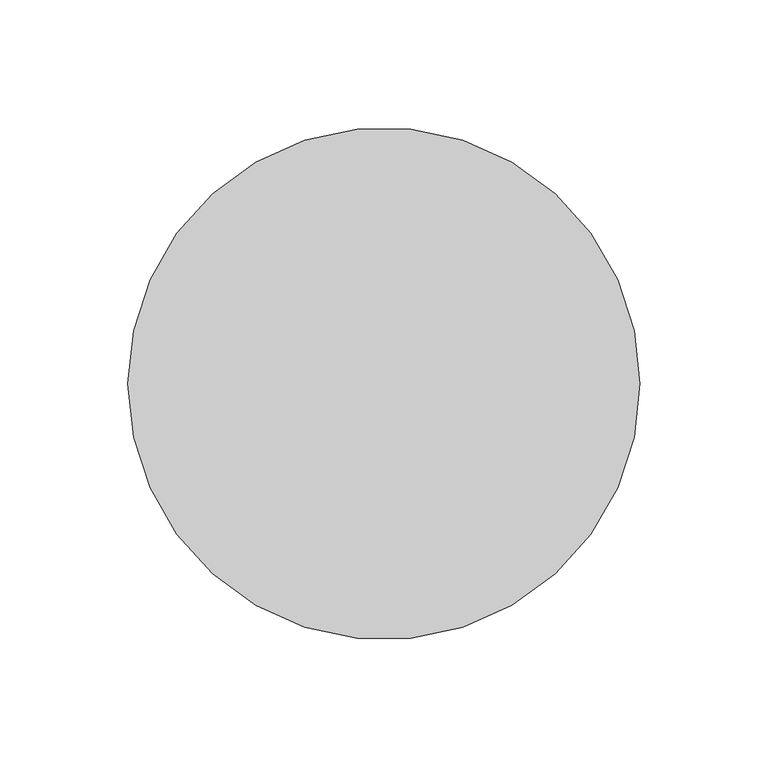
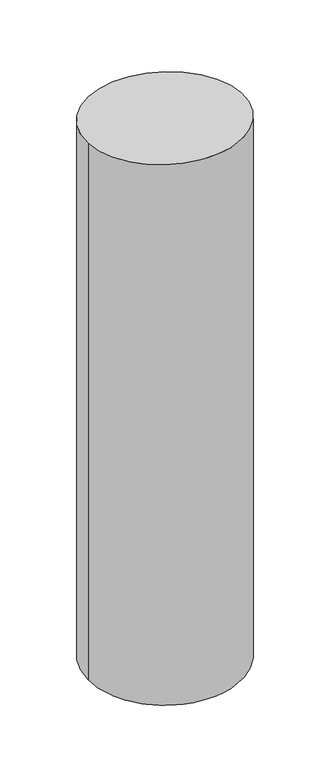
"""IFC4 building model written with IfcOpenShell, lengths in millimetres: member geometry, 矩形竖梃 : 圆瓦."""

from ifc_helpers import new_model, si_unit, frame, origin, origin_with_axes, place, context, project, spatial, circle_curve, ellipse_curve, source, transform, mapped, element, save
from ifc_brep_helpers import plane_surface, cylinder_surface, advanced_brep


def member_d0b930ac(model_context):
    return source(origin(), model_context, "Body", "AdvancedBrep", [
        advanced_brep(
        [(100.0, 0.0, -741.355289), (-100.0, 0.0, -741.355289), (-100.0, 0.0, 0.0), (100.0, 0.0, 0.0)],
        [
            (0, 1, circle_curve(frame((0.0, 0.0, -741.355289), z_axis=(0.0, 0.0, -1.0), x_axis=(1.0, 0.0, 0.0)), 100.0)),
            (1, 0, circle_curve(frame((0.0, 0.0, -741.355289), z_axis=(0.0, 0.0, -1.0), x_axis=(1.0, 0.0, 0.0)), 100.0)),
            (2, 3, ellipse_curve(frame((0.0, 0.0, 0.0), z_axis=(0.0, -0.0655849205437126, -0.9978469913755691), x_axis=(0.0, -0.997846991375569, 0.06558492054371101)), 100.2157654, 100.0)),
            (3, 0),
            (1, 2),
            (3, 2, ellipse_curve(frame((0.0, 0.0, 0.0), z_axis=(0.0, -0.0655849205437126, -0.9978469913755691), x_axis=(0.0, -0.997846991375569, 0.06558492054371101)), 100.2157654, 100.0)),
        ],
        [
            plane_surface(frame((0.0, -100.0, -741.355289), z_axis=(0.0, 0.0, -1.0), x_axis=(-1.0, 0.0, 0.0))),
            cylinder_surface(origin_with_axes(), 100.0),
            plane_surface(frame((-304.8, 0.0, 0.0), z_axis=(0.0, 0.0655849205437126, 0.9978469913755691), x_axis=(0.0, 0.9978469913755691, -0.0655849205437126))),
        ],
        [
            (0, [[1, 2]]),
            (1, [[3, 4, -2, 5]]),
            (1, [[6, -5, -1, -4]]),
            (2, [[-3, -6]]),
        ],
    ),
    ])


if __name__ == "__main__":
    model = new_model("IFC4")
    model_context = context("Model", 3, world=origin())
    ifc_project = project(units=[si_unit("LENGTHUNIT", "METRE", prefix="MILLI")], contexts=[model_context])
    site = spatial("IfcSite", under=ifc_project)
    building = spatial("IfcBuilding", under=site)
    placement = place(None, origin())
    member_shape = member_d0b930ac(model_context)
    element("IfcMember", 1, ObjectType="矩形竖梃 : 圆瓦", at=placement, inside=building, context=model_context, shape_type="MappedRepresentation", body=[
        mapped(member_shape, transform((0.0, 0.0, 0.0), x_axis=(1.0, 0.0, 0.0), y_axis=(0.0, 1.0, 0.0), z_axis=(0.0, 0.0, 1.0))),
    ])
    save(model, "model.ifc")
